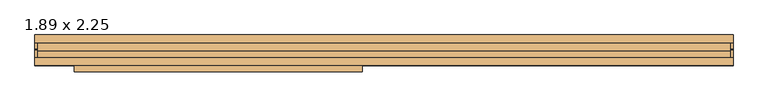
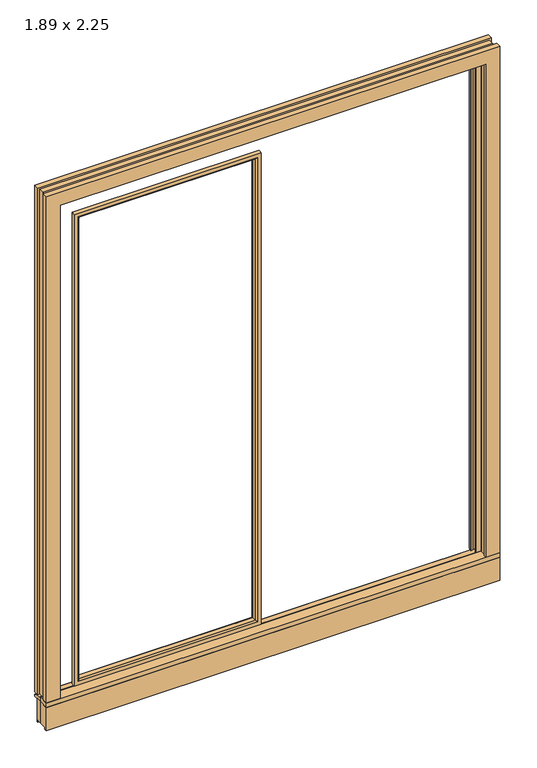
"""IFC4 building model written with IfcOpenShell, lengths in millimetres: door geometry, doorsgealans9000double-vent-door : 1.89 x 2.25."""

from ifc_helpers import new_model, si_unit, point, frame, frame_2d, origin, origin_with_axes, place, context, project, spatial, polyline, circle_curve, ellipse_curve, trimmed, segment, composite_curve, outline, extrude, faceted_brep, source, transform, mapped, element, save
from ifc_brep_helpers import plane_surface, cylinder_surface, advanced_brep


def door_1_89_x_2_25_20da6bba(model_context):
    return source(origin(), model_context, "Body", "SolidModel", [
        advanced_brep(
        [(-816.8959832, -98.693896, 2121.8959829), (-822.6915381, -103.1409817, 2127.6915379), (-822.6915381, -103.1409817, 84.3084616), (-816.8959832, -98.693896, 90.1040166), (-813.0012172, -84.1584314, 2118.0012169), (-813.0012172, -84.1584314, 93.9987826), (-813.0012172, -82.6409817, 2118.0012169), (-813.0012172, -82.6409817, 93.9987826), (-826.1432253, -87.6409817, 2131.143225), (-824.8034793, -82.6409817, 2129.803479), (-824.8034793, -82.6409817, 82.1965205), (-826.1432253, -87.6409817, 80.8567745), (-839.0, -87.6409817, 2143.9999998), (-839.0, -87.6409817, 67.9999998), (-839.0, -103.1409817, 67.9999998), (-839.0, -103.1409817, 2143.9999998), (-75.3084619, -103.1409817, 84.3084616), (-81.1040168, -98.693896, 90.1040166), (-84.9987828, -84.1584314, 93.9987826), (-84.9987828, -82.6409817, 93.9987826), (-73.1965207, -82.6409817, 82.1965205), (-71.8567747, -87.6409817, 80.8567745), (-59.0, -87.6409817, 67.9999998), (-59.0, -103.1409817, 67.9999998), (-75.3084619, -103.1409817, 2127.6915379), (-81.1040168, -98.693896, 2121.8959829), (-84.9987828, -84.1584314, 2118.0012169), (-84.9987828, -82.6409817, 2118.0012169), (-73.1965207, -82.6409817, 2129.803479), (-71.8567747, -87.6409817, 2131.143225), (-59.0, -87.6409817, 2143.9999998), (-59.0, -103.1409817, 2143.9999998)],
        [
            (0, 1, ellipse_curve(frame((-822.6915381, -97.1409817, 2127.6915379), z_axis=(-0.707106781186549, 0.0, -0.7071067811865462), x_axis=(-0.7071067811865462, 0.0, 0.7071067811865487)), 8.4852814, 6.0)),
            (1, 2),
            (2, 3, ellipse_curve(frame((-822.6915381, -97.1409817, 84.3084616), z_axis=(-0.7071067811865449, 0.0, 0.70710678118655), x_axis=(0.7071067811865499, 0.0, 0.707106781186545)), 8.4852814, 6.0)),
            (3, 0),
            (4, 0),
            (3, 5),
            (5, 4),
            (6, 4),
            (5, 7),
            (7, 6),
            (8, 9),
            (9, 10),
            (10, 11),
            (11, 8),
            (12, 13),
            (13, 14),
            (14, 15),
            (15, 12),
            (2, 16),
            (16, 17, ellipse_curve(frame((-75.3084619, -97.1409817, 84.3084616), z_axis=(-0.7071067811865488, 0.0, -0.7071067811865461), x_axis=(-0.7071067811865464, 0.0, 0.7071067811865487)), 8.4852814, 6.0)),
            (17, 3),
            (17, 18),
            (18, 5),
            (18, 19),
            (19, 7),
            (10, 20),
            (20, 21),
            (21, 11),
            (13, 22),
            (22, 23),
            (23, 14),
            (16, 24),
            (24, 25, ellipse_curve(frame((-75.3084619, -97.1409817, 2127.6915379), z_axis=(0.7071067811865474, 0.0, -0.7071067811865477), x_axis=(-0.7071067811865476, 0.0, -0.7071067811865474)), 8.4852814, 6.0)),
            (25, 17),
            (25, 26),
            (26, 18),
            (26, 27),
            (27, 19),
            (20, 28),
            (28, 29),
            (29, 21),
            (22, 30),
            (30, 31),
            (31, 23),
            (24, 1),
            (0, 25),
            (4, 26),
            (6, 27),
            (9, 28),
            (8, 29),
            (12, 30),
            (15, 31),
        ],
        [
            cylinder_surface(frame((-822.6915381, -97.1409817, 2199.9999998), z_axis=(0.0, 0.0, 1.0), x_axis=(0.9659258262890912, -0.2588190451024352, 0.0)), 6.0),
            plane_surface(frame((-816.8959832, -98.693896, 2121.8959829), z_axis=(0.9659258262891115, -0.25881904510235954, 0.0), x_axis=(0.0, 0.0, -1.0))),
            plane_surface(frame((-813.0012172, -84.1584314, 2118.0012169), z_axis=(1.0, 0.0, 0.0), x_axis=(0.0, 0.0, -1.0))),
            plane_surface(frame((-824.8034793, -82.6409817, 2129.803479), z_axis=(-0.9659258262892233, 0.2588190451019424, 0.0), x_axis=(0.0, 0.0, -1.0))),
            plane_surface(frame((-839.0, -102.1409817, 2143.9999998), z_axis=(-1.0, 0.0, 0.0), x_axis=(0.0, 0.0, -1.0))),
            cylinder_surface(frame((-895.0, -97.1409817, 84.3084616), z_axis=(-1.0, 0.0, 0.0), x_axis=(0.0, -0.2588190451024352, 0.9659258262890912)), 6.0),
            plane_surface(frame((-816.8959832, -98.693896, 90.1040166), z_axis=(0.0, -0.25881904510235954, 0.9659258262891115), x_axis=(1.0, 0.0, 0.0))),
            plane_surface(frame((-813.0012172, -84.1584314, 93.9987826), z_axis=(0.0, 0.0, 1.0), x_axis=(1.0, 0.0, 0.0))),
            plane_surface(frame((-824.8034793, -82.6409817, 82.1965205), z_axis=(0.0, 0.2588190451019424, -0.9659258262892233), x_axis=(1.0, 0.0, 0.0))),
            plane_surface(frame((-839.0, -102.1409817, 67.9999998), z_axis=(0.0, 0.0, -1.0), x_axis=(1.0, 0.0, 0.0))),
            cylinder_surface(frame((-75.3084619, -97.1409817, 11.9999998), z_axis=(0.0, 0.0, -1.0), x_axis=(-0.9659258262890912, -0.2588190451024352, 0.0)), 6.0),
            plane_surface(frame((-81.1040168, -98.693896, 90.1040166), z_axis=(-0.9659258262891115, -0.25881904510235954, 0.0), x_axis=(0.0, 0.0, 1.0))),
            plane_surface(frame((-84.9987828, -84.1584314, 93.9987826), z_axis=(-1.0, 0.0, 0.0), x_axis=(0.0, 0.0, 1.0))),
            plane_surface(frame((-73.1965207, -82.6409817, 82.1965205), z_axis=(0.9659258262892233, 0.2588190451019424, 0.0), x_axis=(0.0, 0.0, 1.0))),
            plane_surface(frame((-59.0, -102.1409817, 67.9999998), z_axis=(1.0, 0.0, 0.0), x_axis=(0.0, 0.0, 1.0))),
            cylinder_surface(frame((-3.0, -97.1409817, 2127.6915379), z_axis=(1.0, 0.0, 0.0), x_axis=(0.0, -0.2588190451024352, -0.9659258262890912)), 6.0),
            plane_surface(frame((-81.1040168, -98.693896, 2121.8959829), z_axis=(0.0, -0.25881904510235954, -0.9659258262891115), x_axis=(-1.0, 0.0, 0.0))),
            plane_surface(frame((-84.9987828, -84.1584314, 2118.0012169), z_axis=(0.0, 0.0, -1.0), x_axis=(-1.0, 0.0, 0.0))),
            plane_surface(frame((-84.9987828, -82.6409817, 2118.0012169), z_axis=(0.0, 1.0, 0.0), x_axis=(-1.0, 0.0, 0.0))),
            plane_surface(frame((-73.1965207, -82.6409817, 2129.803479), z_axis=(0.0, 0.2588190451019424, 0.9659258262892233), x_axis=(-1.0, 0.0, 0.0))),
            plane_surface(frame((-71.8567747, -87.6409817, 2131.143225), z_axis=(0.0, 1.0, 0.0), x_axis=(-1.0, 0.0, 0.0))),
            plane_surface(frame((-59.0, -102.1409817, 2143.9999998), z_axis=(0.0, 0.0, 1.0), x_axis=(-1.0, 0.0, 0.0))),
            plane_surface(frame((-59.0, -103.1409817, 2143.9999998), z_axis=(0.0, -1.0, 0.0), x_axis=(-1.0, 0.0, 0.0))),
        ],
        [
            (0, [[1, 2, 3, 4]]),
            (1, [[5, -4, 6, 7]]),
            (2, [[8, -7, 9, 10]]),
            (3, [[11, 12, 13, 14]]),
            (4, [[15, 16, 17, 18]]),
            (5, [[-3, 19, 20, 21]]),
            (6, [[-6, -21, 22, 23]]),
            (7, [[-9, -23, 24, 25]]),
            (8, [[-13, 26, 27, 28]]),
            (9, [[-16, 29, 30, 31]]),
            (10, [[-20, 32, 33, 34]]),
            (11, [[-22, -34, 35, 36]]),
            (12, [[-24, -36, 37, 38]]),
            (13, [[-27, 39, 40, 41]]),
            (14, [[-30, 42, 43, 44]]),
            (15, [[-33, 45, -1, 46]]),
            (16, [[-35, -46, -5, 47]]),
            (17, [[-37, -47, -8, 48]]),
            (18, [[49, -39, -26, -12], [-25, -38, -48, -10]]),
            (19, [[-40, -49, -11, 50]]),
            (20, [[51, -42, -29, -15], [-28, -41, -50, -14]]),
            (21, [[-43, -51, -18, 52]]),
            (22, [[-31, -44, -52, -17], [-45, -32, -19, -2]]),
        ],
    ),
        extrude(outline(polyline([(-44.1409817, 0.0), (-44.1409817, -94.0), (-73.6409817, -94.0), (-73.6409817, -102.0), (-86.1409817, -102.0), (-86.1409817, 0.0), (-44.1409817, 0.0)])), frame((-945.0, 0.0, 0.0), z_axis=(1.0, 0.0, 0.0), x_axis=(0.0, 1.0, 0.0)), (0.0, 0.0, 1.0), 1890.0),
        extrude(outline(polyline([(-20.1409817, 0.0), (-20.1409817, -102.0), (-24.6409817, -102.0), (-24.6409817, -94.0), (-44.1409817, -94.0), (-44.1409817, 0.0), (-20.1409817, 0.0)])), frame((-945.0, 0.0, 0.0), z_axis=(1.0, 0.0, 0.0), x_axis=(0.0, 1.0, 0.0)), (0.0, 0.0, 1.0), 1890.0),
        extrude(outline(polyline([(945.0, -44.1409817), (945.0, -86.1409817), (-945.0, -86.1409817), (-945.0, -44.1409817), (945.0, -44.1409817)])), origin_with_axes(), (0.0, 0.0, 1.0), 20.0),
        extrude(outline(composite_curve([segment(trimmed(circle_curve(frame_2d((-9.6409817, 5.9)), 6.0), [point((-8.9097656, 11.8552769))], [point((-3.6409817, 5.9))], False, "CARTESIAN"), True, "CONTINUOUS"), segment(polyline([(-3.6409817, 5.9), (-3.6409817, 0.0), (-44.1409817, 0.0), (-44.1409817, 20.0), (-41.4409817, 20.0), (-41.4409817, 15.849608), (-8.9097656, 11.8552769)]), True, "CONTINUOUS")], self_intersect=False)), frame((-945.0, 0.0, 0.0), z_axis=(1.0, 0.0, 0.0), x_axis=(0.0, 1.0, 0.0)), (0.0, 0.0, 1.0), 1890.0),
        advanced_brep(
        [(861.0, -17.6132717, 2166.0), (863.5522708, -8.0880674, 2168.5522708), (863.5522708, -8.0880674, 20.0), (861.0, -17.6132717, 20.0), (861.0, -18.6409817, 2166.0), (861.0, -18.6409817, 20.0), (891.1, -32.6523103, 2196.1), (894.0781998, -18.6409817, 2199.0781998), (894.0781998, -18.6409817, 20.0), (891.1, -32.6523103, 20.0), (891.1, -46.1409817, 2196.1), (891.1, -46.1409817, 20.0), (937.0, -24.6409817, 2242.0), (937.0, -46.1409817, 2242.0), (937.0, -46.1409817, 20.0), (937.0, -24.6409817, 20.0), (945.0, -3.6409817, 2250.0), (945.0, -24.6409817, 2250.0), (945.0, -24.6409817, 20.0), (945.0, -3.6409817, 20.0), (869.3478258, -3.6409817, 2174.3478257), (869.3478258, -3.6409817, 20.0), (-861.0, -17.6132717, 20.0), (-863.5522708, -8.0880674, 20.0), (-863.5522708, -8.0880674, 2168.5522708), (-861.0, -17.6132717, 2166.0), (-861.0, -18.6409817, 20.0), (-861.0, -18.6409817, 2166.0), (-891.1, -32.6523103, 20.0), (-894.0781998, -18.6409817, 20.0), (-894.0781998, -18.6409817, 2199.0781998), (-891.1, -32.6523103, 2196.1), (-891.1, -46.1409817, 20.0), (-891.1, -46.1409817, 2196.1), (-937.0, -24.6409817, 20.0), (-937.0, -46.1409817, 20.0), (-937.0, -46.1409817, 2242.0), (-937.0, -24.6409817, 2242.0), (-945.0, -3.6409817, 20.0), (-945.0, -24.6409817, 20.0), (-945.0, -24.6409817, 2250.0), (-945.0, -3.6409817, 2250.0), (-869.3478258, -3.6409817, 20.0), (-869.3478258, -3.6409817, 2174.3478257)],
        [
            (0, 1),
            (1, 2),
            (2, 3),
            (3, 0),
            (4, 0),
            (3, 5),
            (5, 4),
            (6, 7),
            (7, 8),
            (8, 9),
            (9, 6),
            (10, 6),
            (9, 11),
            (11, 10),
            (12, 13),
            (13, 14),
            (14, 15),
            (15, 12),
            (16, 17),
            (17, 18),
            (18, 19),
            (19, 16),
            (1, 20, ellipse_curve(frame((869.3478258, -9.6409817, 2174.3478257), z_axis=(0.7071067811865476, 0.0, -0.7071067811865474), x_axis=(0.7071067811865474, 0.0, 0.7071067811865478)), 8.4852814, 6.0)),
            (20, 21),
            (21, 2, circle_curve(frame((869.3478258, -9.6409817, 20.0), z_axis=(0.0, 0.0, 1.0), x_axis=(0.0, 1.0, 0.0)), 6.0)),
            (22, 23),
            (23, 24),
            (24, 25),
            (25, 22),
            (26, 22),
            (25, 27),
            (27, 26),
            (28, 29),
            (29, 30),
            (30, 31),
            (31, 28),
            (32, 28),
            (31, 33),
            (33, 32),
            (34, 35),
            (35, 36),
            (36, 37),
            (37, 34),
            (38, 39),
            (39, 40),
            (40, 41),
            (41, 38),
            (23, 42, circle_curve(frame((-869.3478258, -9.6409817, 20.0), z_axis=(0.0, 0.0, 1.0), x_axis=(0.0, 1.0, 0.0)), 6.0)),
            (42, 43),
            (43, 24, ellipse_curve(frame((-869.3478258, -9.6409817, 2174.3478257), z_axis=(-0.707106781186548, 0.0, -0.707106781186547), x_axis=(0.707106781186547, 0.0, -0.707106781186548)), 8.4852814, 6.0)),
            (24, 1),
            (0, 25),
            (4, 27),
            (30, 7),
            (6, 31),
            (10, 33),
            (36, 13),
            (12, 37),
            (40, 17),
            (16, 41),
            (43, 20),
            (26, 29),
            (32, 35),
            (34, 39),
            (38, 42),
            (21, 19),
            (18, 15),
            (14, 11),
            (8, 5),
        ],
        [
            plane_surface(frame((863.5522708, -8.0880674, 2168.5522708), z_axis=(-0.9659258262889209, 0.25881904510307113, 0.0), x_axis=(0.0, 0.0, -1.0))),
            plane_surface(frame((861.0, -17.6132717, 2166.0), z_axis=(-1.0, 0.0, 0.0), x_axis=(0.0, 0.0, -1.0))),
            plane_surface(frame((894.0781998, -18.6409817, 2199.0781998), z_axis=(-0.9781476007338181, 0.20791169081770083, 0.0), x_axis=(0.0, 0.0, -1.0))),
            plane_surface(frame((891.1, -32.6523103, 2196.1), z_axis=(-1.0, 0.0, 0.0), x_axis=(0.0, 0.0, -1.0))),
            plane_surface(frame((937.0, -46.1409817, 2242.0), z_axis=(1.0, 0.0, 0.0), x_axis=(0.0, 0.0, -1.0))),
            plane_surface(frame((945.0, -24.6409817, 2250.0), z_axis=(1.0, 0.0, 0.0), x_axis=(0.0, 0.0, -1.0))),
            cylinder_surface(frame((869.3478258, -9.6409817, 2250.0), z_axis=(0.0, 0.0, 1.0), x_axis=(0.0, 1.0, 0.0)), 6.0),
            plane_surface(frame((-863.5522708, -8.0880674, 20.0), z_axis=(0.9659258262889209, 0.25881904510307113, 0.0), x_axis=(0.0, 0.0, 1.0))),
            plane_surface(frame((-861.0, -17.6132717, 20.0), z_axis=(1.0, 0.0, 0.0), x_axis=(0.0, 0.0, 1.0))),
            plane_surface(frame((-894.0781998, -18.6409817, 20.0), z_axis=(0.9781476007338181, 0.20791169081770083, 0.0), x_axis=(0.0, 0.0, 1.0))),
            plane_surface(frame((-891.1, -32.6523103, 20.0), z_axis=(1.0, 0.0, 0.0), x_axis=(0.0, 0.0, 1.0))),
            plane_surface(frame((-937.0, -46.1409817, 20.0), z_axis=(-1.0, 0.0, 0.0), x_axis=(0.0, 0.0, 1.0))),
            plane_surface(frame((-945.0, -24.6409817, 20.0), z_axis=(-1.0, 0.0, 0.0), x_axis=(0.0, 0.0, 1.0))),
            cylinder_surface(frame((-869.3478258, -9.6409817, 20.0), z_axis=(0.0, 0.0, -1.0), x_axis=(0.0, 1.0, 0.0)), 6.0),
            plane_surface(frame((-863.5522708, -8.0880674, 2168.5522708), z_axis=(0.0, 0.25881904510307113, -0.9659258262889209), x_axis=(1.0, 0.0, 0.0))),
            plane_surface(frame((-861.0, -17.6132717, 2166.0), z_axis=(0.0, 0.0, -1.0), x_axis=(1.0, 0.0, 0.0))),
            plane_surface(frame((-894.0781998, -18.6409817, 2199.0781998), z_axis=(0.0, 0.20791169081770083, -0.9781476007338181), x_axis=(1.0, 0.0, 0.0))),
            plane_surface(frame((-891.1, -32.6523103, 2196.1), z_axis=(0.0, 0.0, -1.0), x_axis=(1.0, 0.0, 0.0))),
            plane_surface(frame((-937.0, -46.1409817, 2242.0), z_axis=(0.0, 0.0, 1.0), x_axis=(1.0, 0.0, 0.0))),
            plane_surface(frame((-945.0, -24.6409817, 2250.0), z_axis=(0.0, 0.0, 1.0), x_axis=(1.0, 0.0, 0.0))),
            cylinder_surface(frame((-945.0, -9.6409817, 2174.3478257), z_axis=(-1.0, 0.0, 0.0), x_axis=(0.0, 1.0, 0.0)), 6.0),
            plane_surface(frame((-945.0, -86.1409817, 20.0), z_axis=(0.0, 0.0, -1.0), x_axis=(0.0, -1.0, 0.0))),
            plane_surface(frame((945.0, -86.1409817, 20.0), z_axis=(0.0, 0.0, -1.0), x_axis=(0.0, -1.0, 0.0))),
            plane_surface(frame((-862.0, -18.6409817, 20.0), z_axis=(0.0, -1.0, 0.0), x_axis=(0.0, 0.0, 1.0))),
            plane_surface(frame((-891.1, -46.1409817, 20.0), z_axis=(0.0, -1.0, 0.0), x_axis=(0.0, 0.0, 1.0))),
            plane_surface(frame((-937.0, -24.6409817, 20.0), z_axis=(0.0, -1.0, 0.0), x_axis=(0.0, 0.0, 1.0))),
            plane_surface(frame((-945.0, -3.6409817, 20.0), z_axis=(0.0, 1.0, 0.0), x_axis=(0.0, 0.0, 1.0))),
        ],
        [
            (0, [[1, 2, 3, 4]]),
            (1, [[5, -4, 6, 7]]),
            (2, [[8, 9, 10, 11]]),
            (3, [[12, -11, 13, 14]]),
            (4, [[15, 16, 17, 18]]),
            (5, [[19, 20, 21, 22]]),
            (6, [[23, 24, 25, -2]]),
            (7, [[26, 27, 28, 29]]),
            (8, [[30, -29, 31, 32]]),
            (9, [[33, 34, 35, 36]]),
            (10, [[37, -36, 38, 39]]),
            (11, [[40, 41, 42, 43]]),
            (12, [[44, 45, 46, 47]]),
            (13, [[48, 49, 50, -27]]),
            (14, [[-28, 51, -1, 52]]),
            (15, [[-31, -52, -5, 53]]),
            (16, [[-35, 54, -8, 55]]),
            (17, [[-38, -55, -12, 56]]),
            (18, [[-42, 57, -15, 58]]),
            (19, [[-46, 59, -19, 60]]),
            (20, [[-50, 61, -23, -51]]),
            (21, [[-26, -30, 62, -33, -37, 63, -40, 64, -44, 65, -48]]),
            (22, [[-25, 66, -21, 67, -17, 68, -13, -10, 69, -6, -3]]),
            (23, [[-32, -53, -7, -69, -9, -54, -34, -62]]),
            (24, [[-63, -39, -56, -14, -68, -16, -57, -41]]),
            (25, [[-64, -43, -58, -18, -67, -20, -59, -45]]),
            (26, [[-65, -47, -60, -22, -66, -24, -61, -49]]),
        ],
    ),
        faceted_brep([(887.0, -86.1409817, 2192.0), (887.0, -74.8909817, 2192.0), (887.0, -74.8909817, 20.0), (887.0, -86.1409817, 20.0), (945.0, -86.1409817, 2250.0), (945.0, -86.1409817, 20.0), (945.0, -65.1409817, 20.0), (945.0, -65.1409817, 2250.0), (937.0, -46.1409817, 2242.0), (937.0, -65.1409817, 2242.0), (937.0, -65.1409817, 20.0), (937.0, -46.1409817, 20.0), (891.1, -74.8909817, 2196.1), (891.1, -46.1409817, 2196.1), (891.1, -46.1409817, 20.0), (891.1, -74.8909817, 20.0), (-887.0, -86.1409817, 20.0), (-887.0, -74.8909817, 20.0), (-887.0, -74.8909817, 2192.0), (-887.0, -86.1409817, 2192.0), (-945.0, -86.1409817, 20.0), (-945.0, -86.1409817, 2250.0), (-945.0, -65.1409817, 2250.0), (-945.0, -65.1409817, 20.0), (-937.0, -46.1409817, 20.0), (-937.0, -65.1409817, 20.0), (-937.0, -65.1409817, 2242.0), (-937.0, -46.1409817, 2242.0), (-891.1, -74.8909817, 20.0), (-891.1, -46.1409817, 20.0), (-891.1, -46.1409817, 2196.1), (-891.1, -74.8909817, 2196.1)], [[[0, 1, 2, 3]], [[4, 5, 6, 7]], [[8, 9, 10, 11]], [[12, 13, 14, 15]], [[16, 17, 18, 19]], [[20, 21, 22, 23]], [[24, 25, 26, 27]], [[28, 29, 30, 31]], [[19, 18, 1, 0]], [[22, 21, 4, 7]], [[27, 26, 9, 8]], [[31, 30, 13, 12]], [[17, 16, 20, 23, 25, 24, 29, 28]], [[2, 15, 14, 11, 10, 6, 5, 3]], [[20, 16, 19, 0, 3, 5, 4, 21]], [[25, 23, 22, 7, 6, 10, 9, 26]], [[29, 24, 27, 8, 11, 14, 13, 30]], [[17, 28, 31, 12, 15, 2, 1, 18]]]),
        extrude(outline(polyline([(20.0, -891.1), (20.0, -870.0), (2175.0, -870.0), (2175.0, 870.0), (20.0, 870.0), (20.0, 891.1), (2196.1, 891.1), (2196.1, -891.1), (20.0, -891.1)])), frame((0.0, -43.6409817, 0.0), z_axis=(0.0, 1.0, 0.0), x_axis=(0.0, 0.0, 1.0)), (0.0, 0.0, 1.0), 5.3),
        extrude(outline(polyline([(20.0, -868.8), (20.0, -861.0), (2166.0, -861.0), (2166.0, 861.0), (20.0, 861.0), (20.0, 868.8), (2173.8, 868.8), (2173.8, -868.8), (20.0, -868.8)])), frame((0.0, -22.1409817, 0.0), z_axis=(0.0, 1.0, 0.0), x_axis=(0.0, 0.0, 1.0)), (0.0, 0.0, 1.0), 3.5),
    ])


if __name__ == "__main__":
    model = new_model("IFC4")
    model_context = context("Model", 3, world=origin())
    ifc_project = project(units=[si_unit("LENGTHUNIT", "METRE", prefix="MILLI")], contexts=[model_context])
    site = spatial("IfcSite", under=ifc_project)
    building = spatial("IfcBuilding", under=site)
    placement = place(None, origin())
    door_1_89_x_2_25_shape = door_1_89_x_2_25_20da6bba(model_context)
    element("IfcDoor", 1, ObjectType="doorsgealans9000double-vent-door : 1.89 x 2.25", at=placement, inside=building, context=model_context, shape_type="MappedRepresentation", body=[
        mapped(door_1_89_x_2_25_shape, transform((0.0, 0.0, 0.0), x_axis=(1.0, 0.0, 0.0), y_axis=(0.0, 1.0, 0.0), z_axis=(0.0, 0.0, 1.0))),
    ])
    save(model, "model.ifc")
